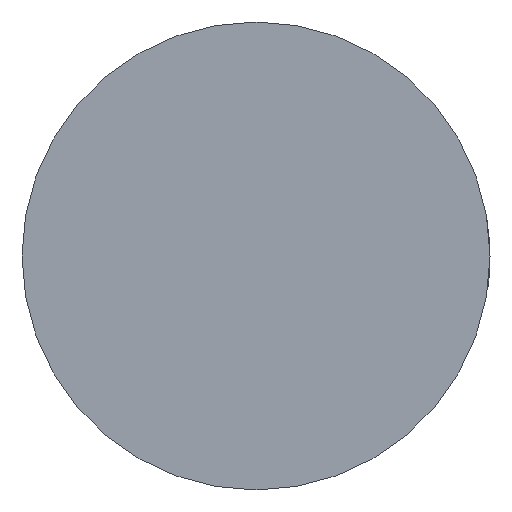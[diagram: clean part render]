
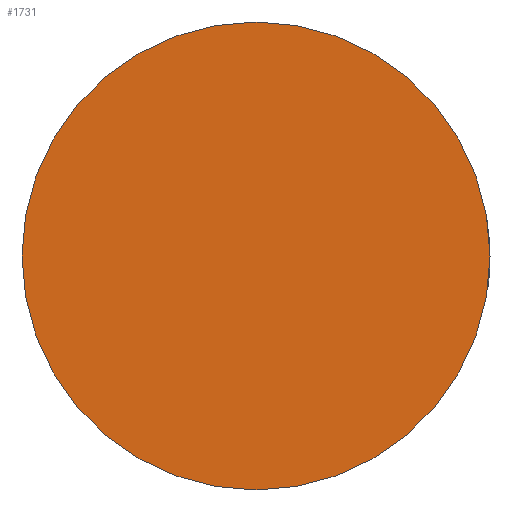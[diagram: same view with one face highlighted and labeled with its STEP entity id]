
A CAD part, front view. The second image highlights one B-rep face of the part: STEP entity #1731.
In plain terms, the highlighted planar face has unit normal (0, -1, 0).
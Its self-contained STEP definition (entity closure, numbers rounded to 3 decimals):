
#267 = EDGE_LOOP ( 'NONE', ( #364 ) ) ;
#364 = ORIENTED_EDGE ( 'NONE', *, *, #1707, .F. ) ;
#709 = CARTESIAN_POINT ( 'NONE',  ( 0., -17.5, 8. ) ) ;
#918 = FACE_OUTER_BOUND ( 'NONE', #267, .T. ) ;
#1259 = AXIS2_PLACEMENT_3D ( 'NONE', #2059, #3905, #2359 ) ;
#1307 = CARTESIAN_POINT ( 'NONE',  ( 0., -17.5, 0. ) ) ;
#1707 = EDGE_CURVE ( 'NONE', #3606, #3606, #4513, .T. ) ;
#1731 = ADVANCED_FACE ( 'NONE', ( #918 ), #2400, .F. ) ;
#1816 = AXIS2_PLACEMENT_3D ( 'NONE', #1307, #4634, #3553 ) ;
#2059 = CARTESIAN_POINT ( 'NONE',  ( 0., -17.5, 0. ) ) ;
#2359 = DIRECTION ( 'NONE',  ( 0., 0., 1. ) ) ;
#2400 = PLANE ( 'NONE',  #1259 ) ;
#3553 = DIRECTION ( 'NONE',  ( 0., 0., 1. ) ) ;
#3606 = VERTEX_POINT ( 'NONE', #709 ) ;
#3905 = DIRECTION ( 'NONE',  ( 0., 1., 0. ) ) ;
#4513 = CIRCLE ( 'NONE', #1816, 8. ) ;
#4634 = DIRECTION ( 'NONE',  ( 0., 1., 0. ) ) ;
